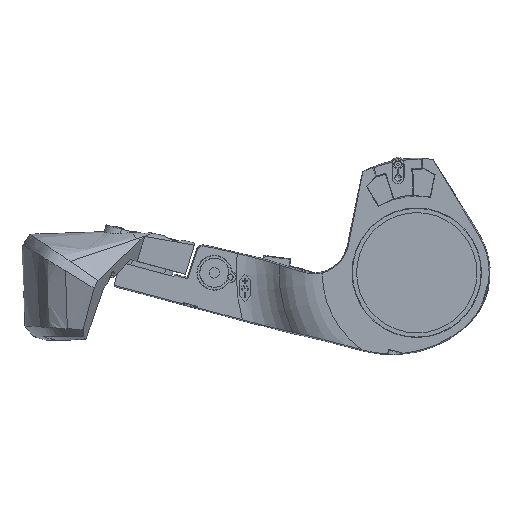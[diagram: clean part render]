
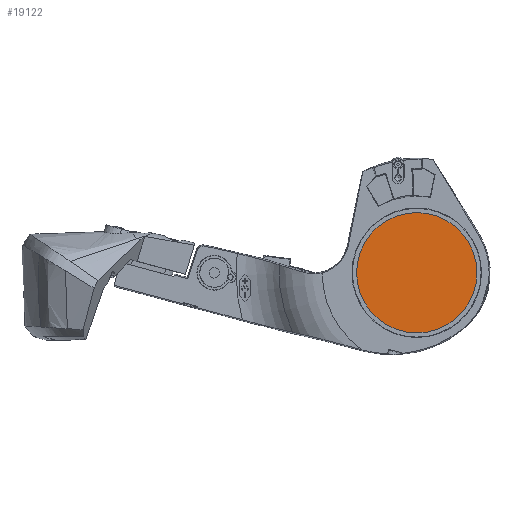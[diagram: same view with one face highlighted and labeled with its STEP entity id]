
A CAD part, front view. The second image highlights one B-rep face of the part: STEP entity #19122.
In plain terms, the highlighted planar face has unit normal (0, -1, 0).
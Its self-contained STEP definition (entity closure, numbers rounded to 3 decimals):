
#267 = VERTEX_POINT ( 'NONE', #2788 ) ;
#1304 = DIRECTION ( 'NONE',  ( 0., 1., 0. ) ) ;
#1486 = DIRECTION ( 'NONE',  ( -1., 0., 0. ) ) ;
#2788 = CARTESIAN_POINT ( 'NONE',  ( 162.5, -205., 930. ) ) ;
#3979 = DIRECTION ( 'NONE',  ( 0., 1., 0. ) ) ;
#4170 = CARTESIAN_POINT ( 'NONE',  ( 320., -205., 930. ) ) ;
#4738 = AXIS2_PLACEMENT_3D ( 'NONE', #4170, #3979, #25022 ) ;
#12705 = PLANE ( 'NONE',  #24680 ) ;
#14030 = EDGE_LOOP ( 'NONE', ( #29811 ) ) ;
#19122 = ADVANCED_FACE ( 'NONE', ( #27538 ), #12705, .F. ) ;
#20682 = EDGE_CURVE ( 'NONE', #267, #267, #35218, .T. ) ;
#24680 = AXIS2_PLACEMENT_3D ( 'NONE', #36526, #1304, #1486 ) ;
#25022 = DIRECTION ( 'NONE',  ( -1., 0., 0. ) ) ;
#27538 = FACE_OUTER_BOUND ( 'NONE', #14030, .T. ) ;
#29811 = ORIENTED_EDGE ( 'NONE', *, *, #20682, .F. ) ;
#35218 = CIRCLE ( 'NONE', #4738, 157.5 ) ;
#36526 = CARTESIAN_POINT ( 'NONE',  ( 320., -205., 1087.5 ) ) ;
